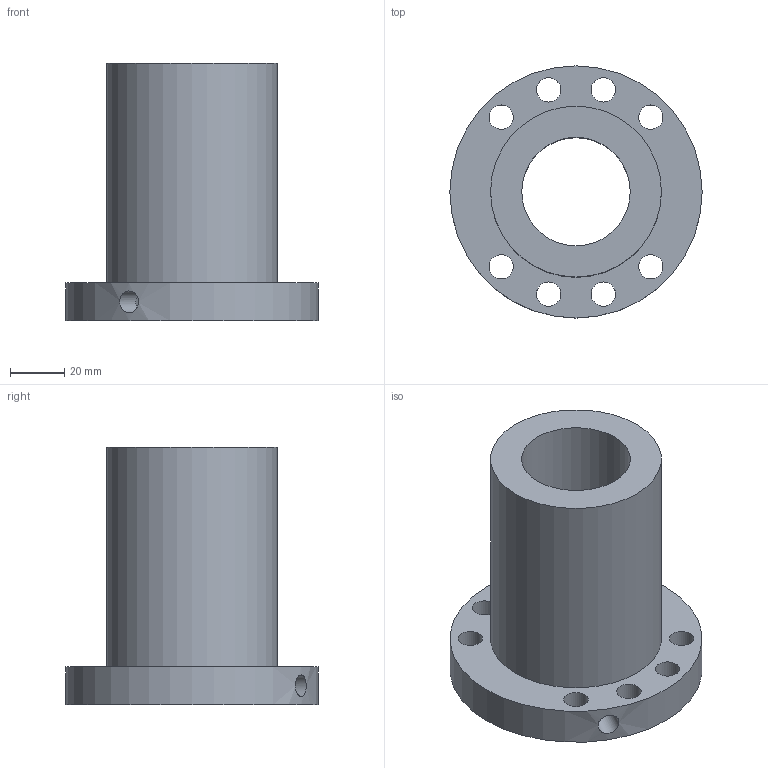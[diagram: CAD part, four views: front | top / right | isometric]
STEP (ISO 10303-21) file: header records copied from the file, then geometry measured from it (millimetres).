
FILE_DESCRIPTION(/* description */ (''),/* implementation_level */ '2;1');
FILE_NAME(/* name */ '40-5K5_3175',/* time_stamp */ '2007-10-15T12:53:57+08:00',/* author */ (''),/* organization */ (''),/* preprocessor_version */ 'ST-DEVELOPER v11',/* originating_system */ 'UGS - NX 5.0',/* authorisation */ '');
FILE_SCHEMA (('CONFIG_CONTROL_DESIGN'));
Length unit declared in the file: millimetre
Products named in the file (1): 40-5K5_3175
Bounding box: 93 x 93 x 95 mm (x, y, z)
Volume: 220079.7 mm3; surface area: 45799.6 mm2
Topology: 1 solids, 1 shells, 17 faces, 40 edges, 27 vertices
Faces by surface type: cylinder 13, plane 4
Full cylindrical faces by diameter (mm): 6 x1, 8 x1, 9 x8, 40 x1, 63 x1, 93 x1
Entity records: 668 total; most frequent: CARTESIAN_POINT 184, DIRECTION 84, FACE_BOUND 52, EDGE_LOOP 52, ORIENTED_EDGE 52, AXIS2_PLACEMENT_3D 42, VERTEX_POINT 26, EDGE_CURVE 26
